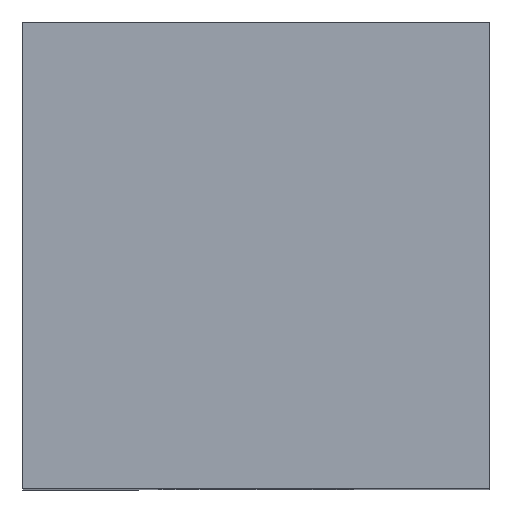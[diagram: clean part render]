
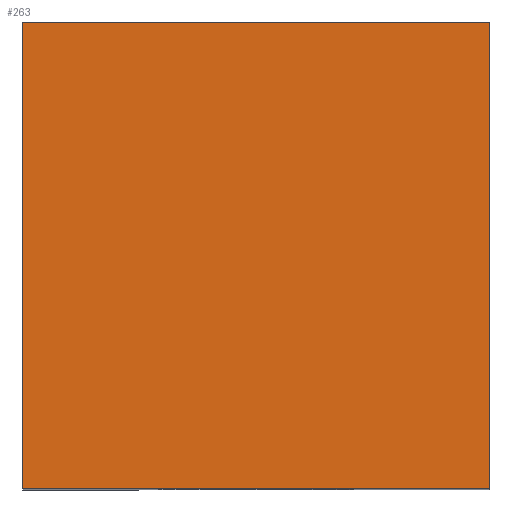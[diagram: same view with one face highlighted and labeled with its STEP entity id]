
A CAD part, top view. The second image highlights one B-rep face of the part: STEP entity #263.
In plain terms, the highlighted planar face has unit normal (0, 0, 1).
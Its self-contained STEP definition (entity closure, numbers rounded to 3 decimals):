
#37 = VERTEX_POINT ( 'NONE', #189 ) ;
#71 = LINE ( 'NONE', #228, #312 ) ;
#74 = CARTESIAN_POINT ( 'NONE',  ( -3.5, 3.5, 0. ) ) ;
#80 = EDGE_LOOP ( 'NONE', ( #445, #378, #277, #313 ) ) ;
#90 = EDGE_CURVE ( 'NONE', #269, #497, #243, .T. ) ;
#122 = DIRECTION ( 'NONE',  ( 0., -1., 0. ) ) ;
#123 = DIRECTION ( 'NONE',  ( -1., 0., 0. ) ) ;
#157 = CARTESIAN_POINT ( 'NONE',  ( 3.5, 3.5, 0. ) ) ;
#172 = VERTEX_POINT ( 'NONE', #272 ) ;
#188 = FACE_OUTER_BOUND ( 'NONE', #80, .T. ) ;
#189 = CARTESIAN_POINT ( 'NONE',  ( 3.5, -3.5, 0. ) ) ;
#196 = VECTOR ( 'NONE', #123, 1000. ) ;
#214 = LINE ( 'NONE', #222, #403 ) ;
#222 = CARTESIAN_POINT ( 'NONE',  ( 3.5, -3.5, 0. ) ) ;
#226 = DIRECTION ( 'NONE',  ( 0., 1., 0. ) ) ;
#228 = CARTESIAN_POINT ( 'NONE',  ( 3.5, -3.5, 0. ) ) ;
#243 = LINE ( 'NONE', #157, #196 ) ;
#263 = ADVANCED_FACE ( 'NONE', ( #188 ), #296, .T. ) ;
#269 = VERTEX_POINT ( 'NONE', #276 ) ;
#272 = CARTESIAN_POINT ( 'NONE',  ( -3.5, -3.5, 0. ) ) ;
#273 = EDGE_CURVE ( 'NONE', #37, #269, #71, .T. ) ;
#276 = CARTESIAN_POINT ( 'NONE',  ( 3.5, 3.5, 0. ) ) ;
#277 = ORIENTED_EDGE ( 'NONE', *, *, #273, .T. ) ;
#278 = DIRECTION ( 'NONE',  ( 0., 0., 1. ) ) ;
#286 = DIRECTION ( 'NONE',  ( 1., 0., 0. ) ) ;
#288 = CARTESIAN_POINT ( 'NONE',  ( -3.5, 3.5, 0. ) ) ;
#296 = PLANE ( 'NONE',  #442 ) ;
#304 = EDGE_CURVE ( 'NONE', #172, #37, #214, .T. ) ;
#309 = CARTESIAN_POINT ( 'NONE',  ( -3.5, -3.5, 0. ) ) ;
#312 = VECTOR ( 'NONE', #226, 1000. ) ;
#313 = ORIENTED_EDGE ( 'NONE', *, *, #90, .T. ) ;
#335 = DIRECTION ( 'NONE',  ( 1., 0., 0. ) ) ;
#378 = ORIENTED_EDGE ( 'NONE', *, *, #304, .T. ) ;
#403 = VECTOR ( 'NONE', #335, 1000. ) ;
#442 = AXIS2_PLACEMENT_3D ( 'NONE', #288, #278, #286 ) ;
#445 = ORIENTED_EDGE ( 'NONE', *, *, #447, .T. ) ;
#447 = EDGE_CURVE ( 'NONE', #497, #172, #507, .T. ) ;
#491 = VECTOR ( 'NONE', #122, 1000. ) ;
#497 = VERTEX_POINT ( 'NONE', #74 ) ;
#507 = LINE ( 'NONE', #309, #491 ) ;
